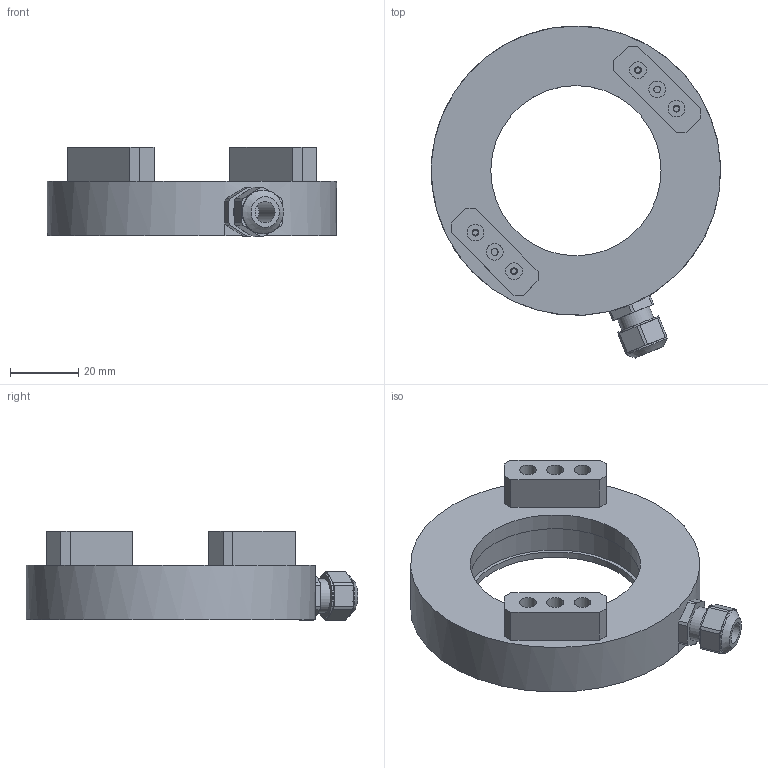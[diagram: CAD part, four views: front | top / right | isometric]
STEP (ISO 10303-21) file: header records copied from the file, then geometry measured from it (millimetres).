
FILE_DESCRIPTION( ( '' ), '1' );
FILE_NAME( 'L:/01_Produktserie LUMIMAX/DFL-Serie/DFL50/03_Konstruktion/DFL50 Download & Katalog/DFL50-DFL50FL.stp', '%{Zugriffsdatum}', ( 'Christian Koch' ), ( 'iiM AG' ), 'PSStep 13.0', 'Solid Edge', ' ' );
FILE_SCHEMA( ( 'AUTOMOTIVE_DESIGN { 1 0 10303 214 1 1 1 1 }' ) );
Length unit declared in the file: millimetre
Products named in the file (1): 1
Bounding box: 84.92 x 97.5 x 26.25 mm (x, y, z)
Volume: 48233 mm3; surface area: 27847.5 mm2
Topology: 1 solids, 5 shells, 132 faces, 307 edges, 208 vertices
Faces by surface type: plane 71, cylinder 55, cone 6
Full cylindrical faces by diameter (mm): 1.567 x9, 2 x6, 4.917 x6, 6.25 x2, 10 x1, 12.9 x2, 50 x1, 52 x1, 54 x1, 55 x1, 56 x2, 58 x1, 64.2 x1, 85 x1
Entity records: 4472 total; most frequent: CARTESIAN_POINT 632, DIRECTION 594, ORIENTED_EDGE 474, AXIS2_PLACEMENT_3D 239, EDGE_CURVE 237, EDGE_LOOP 205, VERTEX_POINT 185, FACE_OUTER_BOUND 166
